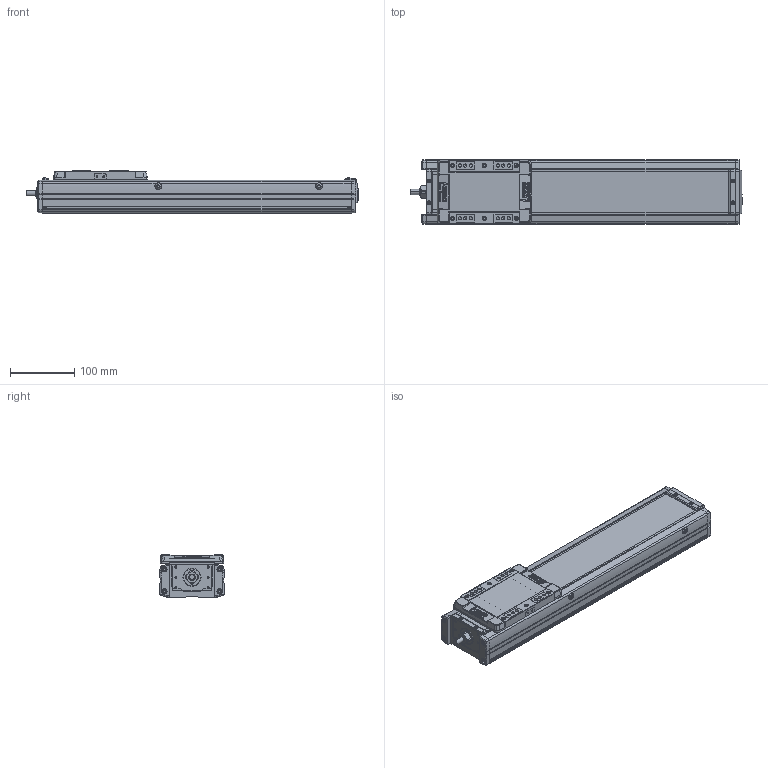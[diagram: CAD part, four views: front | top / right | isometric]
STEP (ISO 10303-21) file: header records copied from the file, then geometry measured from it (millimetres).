
FILE_DESCRIPTION(('STEP AP214'),'1');
FILE_NAME('Z:/Web/3D/SAN100/SAN100 양산용 (STEP)/SAN100ㅁㅁ-300.stp','2013-04-25T06:37:10',(' '),(' '),'Spatial InterOp 3D',' ',' ');
FILE_SCHEMA(('automotive_design'));
Length unit declared in the file: millimetre
Products named in the file (34): SUS COVER; SFX-SAN100; RRCV-SAN100; 스크루 : Round - M4.0 x 10.0; M3.0 x 6.0; 스크루 : Round - M3.0 x 6.0; FRBL-SAN100; SLBL-SAN100; SLCV-SAN100; 스크루 : Countersunk - M3.0 x 6.0; BASE; 스크루 : Round - M5.0 x 6.0; 너트 : Square - M10.0 x 220.7419; RR1500-000L; FRCV-SAN100
Bounding box: 516 x 100 x 66 mm (x, y, z)
Volume: 1434981.8 mm3; surface area: 377846.1 mm2
Topology: 34 solids, 35 shells, 1938 faces, 5046 edges, 3245 vertices
Faces by surface type: plane 967, cylinder 703, cone 186, sphere 44, torus 26, bspline 12
Entity records: 76403 total; most frequent: CARTESIAN_POINT 11645, DIRECTION 10609, ORIENTED_EDGE 9936, EDGE_CURVE 4968, AXIS2_PLACEMENT_3D 3798, VERTEX_POINT 3245, LINE 3013, VECTOR 3013
